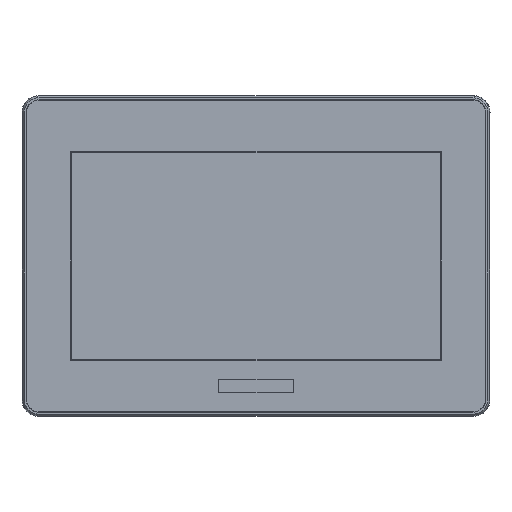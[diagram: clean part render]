
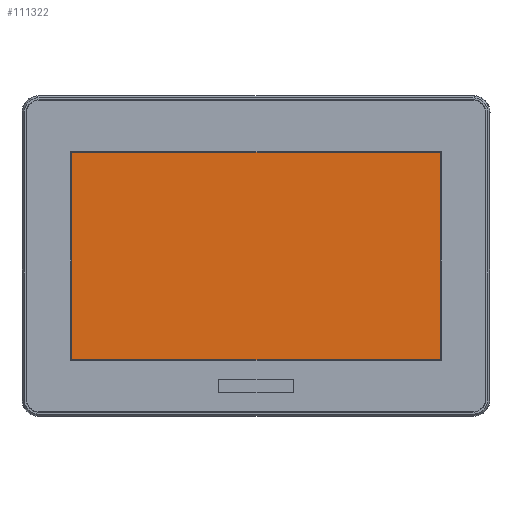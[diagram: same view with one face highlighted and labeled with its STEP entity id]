
A CAD part, top view. The second image highlights one B-rep face of the part: STEP entity #111322.
In plain terms, the highlighted planar face has unit normal (0, 0, 1).
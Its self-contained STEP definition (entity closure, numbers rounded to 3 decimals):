
#7918 = CARTESIAN_POINT ( 'NONE',  ( -123.14, -61.343, 26.318 ) ) ;
#15734 = DIRECTION ( 'NONE',  ( -1., 0., 0. ) ) ;
#17283 = VERTEX_POINT ( 'NONE', #44131 ) ;
#18979 = CARTESIAN_POINT ( 'NONE',  ( 99.58, 63.937, 26.318 ) ) ;
#20200 = EDGE_CURVE ( 'NONE', #44106, #105780, #32991, .T. ) ;
#23936 = LINE ( 'NONE', #18979, #111768 ) ;
#31625 = CARTESIAN_POINT ( 'NONE',  ( -123.14, 63.937, 26.318 ) ) ;
#32991 = LINE ( 'NONE', #7918, #45905 ) ;
#36386 = ORIENTED_EDGE ( 'NONE', *, *, #86528, .T. ) ;
#36733 = EDGE_LOOP ( 'NONE', ( #48862, #36386, #72451, #90156 ) ) ;
#38552 = PLANE ( 'NONE',  #112046 ) ;
#44106 = VERTEX_POINT ( 'NONE', #58770 ) ;
#44131 = CARTESIAN_POINT ( 'NONE',  ( 99.58, 63.937, 26.318 ) ) ;
#45905 = VECTOR ( 'NONE', #72200, 1000. ) ;
#46988 = DIRECTION ( 'NONE',  ( 0., 0., 1. ) ) ;
#48862 = ORIENTED_EDGE ( 'NONE', *, *, #20200, .T. ) ;
#49036 = CARTESIAN_POINT ( 'NONE',  ( 99.58, -61.343, 26.318 ) ) ;
#58770 = CARTESIAN_POINT ( 'NONE',  ( -123.14, -61.343, 26.318 ) ) ;
#59235 = EDGE_CURVE ( 'NONE', #17283, #88843, #101908, .T. ) ;
#62308 = DIRECTION ( 'NONE',  ( 0., -1., 0. ) ) ;
#63459 = VECTOR ( 'NONE', #62308, 1000. ) ;
#65091 = EDGE_CURVE ( 'NONE', #88843, #44106, #102226, .T. ) ;
#65159 = DIRECTION ( 'NONE',  ( 0., 1., 0. ) ) ;
#65835 = DIRECTION ( 'NONE',  ( 0., -1., 0. ) ) ;
#66232 = CARTESIAN_POINT ( 'NONE',  ( -11.78, 1.297, 26.318 ) ) ;
#72200 = DIRECTION ( 'NONE',  ( 1., 0., 0. ) ) ;
#72451 = ORIENTED_EDGE ( 'NONE', *, *, #59235, .T. ) ;
#80805 = CARTESIAN_POINT ( 'NONE',  ( -123.14, 63.937, 26.318 ) ) ;
#82413 = FACE_OUTER_BOUND ( 'NONE', #36733, .T. ) ;
#86528 = EDGE_CURVE ( 'NONE', #105780, #17283, #23936, .T. ) ;
#88843 = VERTEX_POINT ( 'NONE', #31625 ) ;
#90156 = ORIENTED_EDGE ( 'NONE', *, *, #65091, .T. ) ;
#98574 = CARTESIAN_POINT ( 'NONE',  ( -123.14, 63.937, 26.318 ) ) ;
#101908 = LINE ( 'NONE', #98574, #109059 ) ;
#102226 = LINE ( 'NONE', #80805, #63459 ) ;
#105780 = VERTEX_POINT ( 'NONE', #49036 ) ;
#109059 = VECTOR ( 'NONE', #15734, 1000. ) ;
#111322 = ADVANCED_FACE ( 'NONE', ( #82413 ), #38552, .T. ) ;
#111768 = VECTOR ( 'NONE', #65159, 1000. ) ;
#112046 = AXIS2_PLACEMENT_3D ( 'NONE', #66232, #46988, #65835 ) ;
